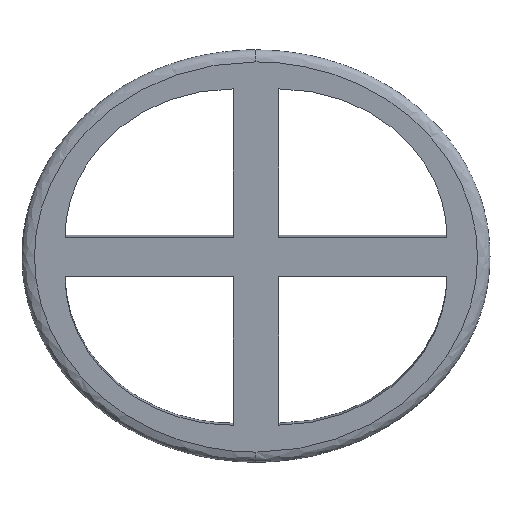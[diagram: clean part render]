
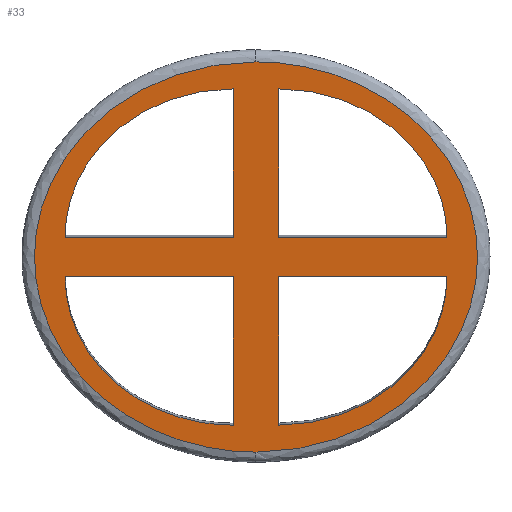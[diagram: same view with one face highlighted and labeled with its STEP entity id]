
A CAD part, front view. The second image highlights one B-rep face of the part: STEP entity #33.
In plain terms, the highlighted planar face has unit normal (-0.001, -0.994, -0.107).
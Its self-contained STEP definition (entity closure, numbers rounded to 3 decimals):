
#24=FACE_BOUND('',#70,.T.);
#25=FACE_BOUND('',#71,.T.);
#26=FACE_BOUND('',#72,.T.);
#27=FACE_BOUND('',#73,.T.);
#33=ADVANCED_FACE('',(#51,#24,#25,#26,#27),#308,.T.);
#51=FACE_OUTER_BOUND('',#69,.T.);
#69=EDGE_LOOP('',(#98,#99));
#70=EDGE_LOOP('',(#100,#101,#102));
#71=EDGE_LOOP('',(#103,#104,#105));
#72=EDGE_LOOP('',(#106,#107,#108));
#73=EDGE_LOOP('',(#109,#110,#111));
#98=ORIENTED_EDGE('',*,*,#197,.T.);
#99=ORIENTED_EDGE('',*,*,#231,.T.);
#100=ORIENTED_EDGE('',*,*,#204,.F.);
#101=ORIENTED_EDGE('',*,*,#189,.F.);
#102=ORIENTED_EDGE('',*,*,#188,.F.);
#103=ORIENTED_EDGE('',*,*,#190,.F.);
#104=ORIENTED_EDGE('',*,*,#208,.F.);
#105=ORIENTED_EDGE('',*,*,#191,.F.);
#106=ORIENTED_EDGE('',*,*,#192,.F.);
#107=ORIENTED_EDGE('',*,*,#215,.F.);
#108=ORIENTED_EDGE('',*,*,#193,.F.);
#109=ORIENTED_EDGE('',*,*,#225,.T.);
#110=ORIENTED_EDGE('',*,*,#194,.T.);
#111=ORIENTED_EDGE('',*,*,#195,.T.);
#188=EDGE_CURVE('',#279,#280,#232,.T.);
#189=EDGE_CURVE('',#280,#281,#233,.T.);
#190=EDGE_CURVE('',#283,#284,#234,.T.);
#191=EDGE_CURVE('',#284,#282,#235,.T.);
#192=EDGE_CURVE('',#286,#287,#236,.T.);
#193=EDGE_CURVE('',#287,#285,#237,.T.);
#194=EDGE_CURVE('',#288,#289,#238,.T.);
#195=EDGE_CURVE('',#289,#290,#239,.T.);
#197=EDGE_CURVE('',#303,#307,#259,.T.);
#204=EDGE_CURVE('',#281,#279,#261,.T.);
#208=EDGE_CURVE('',#282,#283,#265,.T.);
#215=EDGE_CURVE('',#285,#286,#269,.T.);
#225=EDGE_CURVE('',#290,#288,#271,.T.);
#231=EDGE_CURVE('',#307,#303,#277,.T.);
#232=B_SPLINE_CURVE_WITH_KNOTS('',1,(#1213,#1214),.UNSPECIFIED.,.F.,.F.,
(2,2),(6.283,6.783),.UNSPECIFIED.);
#233=B_SPLINE_CURVE_WITH_KNOTS('',1,(#1215,#1216),.UNSPECIFIED.,.F.,.F.,
(2,2),(6.783,7.783),.UNSPECIFIED.);
#234=B_SPLINE_CURVE_WITH_KNOTS('',1,(#1217,#1218),.UNSPECIFIED.,.F.,.F.,
(2,2),(5.142,6.142),.UNSPECIFIED.);
#235=B_SPLINE_CURVE_WITH_KNOTS('',1,(#1219,#1220),.UNSPECIFIED.,.F.,.F.,
(2,2),(6.142,6.642),.UNSPECIFIED.);
#236=B_SPLINE_CURVE_WITH_KNOTS('',1,(#1221,#1222),.UNSPECIFIED.,.F.,.F.,
(2,2),(6.142,7.142),.UNSPECIFIED.);
#237=B_SPLINE_CURVE_WITH_KNOTS('',1,(#1223,#1224),.UNSPECIFIED.,.F.,.F.,
(2,2),(7.142,7.642),.UNSPECIFIED.);
#238=B_SPLINE_CURVE_WITH_KNOTS('',1,(#1225,#1226),.UNSPECIFIED.,.F.,.F.,
(2,2),(0.,1.),.UNSPECIFIED.);
#239=B_SPLINE_CURVE_WITH_KNOTS('',1,(#1227,#1228),.UNSPECIFIED.,.F.,.F.,
(2,2),(1.,1.5),.UNSPECIFIED.);
#259=(
BOUNDED_CURVE()
B_SPLINE_CURVE(2,(#1234,#1235,#1236,#1237,#1238),.UNSPECIFIED.,.F.,.F.)
B_SPLINE_CURVE_WITH_KNOTS((3,2,3),(0.,1.571,3.142),
 .UNSPECIFIED.)
CURVE()
GEOMETRIC_REPRESENTATION_ITEM()
RATIONAL_B_SPLINE_CURVE((1.,0.707,1.,0.707,1.))
REPRESENTATION_ITEM('')
);
#261=(
BOUNDED_CURVE()
B_SPLINE_CURVE(2,(#1252,#1253,#1254),.UNSPECIFIED.,.F.,.F.)
B_SPLINE_CURVE_WITH_KNOTS((3,3),(7.783,9.354),
 .UNSPECIFIED.)
CURVE()
GEOMETRIC_REPRESENTATION_ITEM()
RATIONAL_B_SPLINE_CURVE((1.,0.707,1.))
REPRESENTATION_ITEM('')
);
#265=(
BOUNDED_CURVE()
B_SPLINE_CURVE(2,(#1262,#1263,#1264),.UNSPECIFIED.,.F.,.F.)
B_SPLINE_CURVE_WITH_KNOTS((3,3),(3.571,5.142),
 .UNSPECIFIED.)
CURVE()
GEOMETRIC_REPRESENTATION_ITEM()
RATIONAL_B_SPLINE_CURVE((1.,0.707,1.))
REPRESENTATION_ITEM('')
);
#269=(
BOUNDED_CURVE()
B_SPLINE_CURVE(2,(#1278,#1279,#1280),.UNSPECIFIED.,.F.,.F.)
B_SPLINE_CURVE_WITH_KNOTS((3,3),(4.571,6.142),
 .UNSPECIFIED.)
CURVE()
GEOMETRIC_REPRESENTATION_ITEM()
RATIONAL_B_SPLINE_CURVE((1.,0.707,1.))
REPRESENTATION_ITEM('')
);
#271=(
BOUNDED_CURVE()
B_SPLINE_CURVE(2,(#1300,#1301,#1302),.UNSPECIFIED.,.F.,.F.)
B_SPLINE_CURVE_WITH_KNOTS((3,3),(1.5,3.071),.UNSPECIFIED.)
CURVE()
GEOMETRIC_REPRESENTATION_ITEM()
RATIONAL_B_SPLINE_CURVE((1.,0.707,1.))
REPRESENTATION_ITEM('')
);
#277=(
BOUNDED_CURVE()
B_SPLINE_CURVE(2,(#1371,#1372,#1373,#1374,#1375),.UNSPECIFIED.,.F.,.F.)
B_SPLINE_CURVE_WITH_KNOTS((3,2,3),(3.142,4.712,6.283),
 .UNSPECIFIED.)
CURVE()
GEOMETRIC_REPRESENTATION_ITEM()
RATIONAL_B_SPLINE_CURVE((1.,0.707,1.,0.707,1.))
REPRESENTATION_ITEM('')
);
#279=VERTEX_POINT('',#1127);
#280=VERTEX_POINT('',#1128);
#281=VERTEX_POINT('',#1129);
#282=VERTEX_POINT('',#1130);
#283=VERTEX_POINT('',#1131);
#284=VERTEX_POINT('',#1132);
#285=VERTEX_POINT('',#1133);
#286=VERTEX_POINT('',#1134);
#287=VERTEX_POINT('',#1135);
#288=VERTEX_POINT('',#1136);
#289=VERTEX_POINT('',#1137);
#290=VERTEX_POINT('',#1138);
#303=VERTEX_POINT('',#1151);
#307=VERTEX_POINT('',#1155);
#308=PLANE('',#346);
#346=AXIS2_PLACEMENT_3D('',#552,#359,$);
#359=DIRECTION('',(-0.001,-0.994,-0.107));
#552=CARTESIAN_POINT('',(-35.975,-91.098,-23.45));
#1127=CARTESIAN_POINT('',(-3.681,-91.665,-18.555));
#1128=CARTESIAN_POINT('',(-3.681,-94.203,4.99));
#1129=CARTESIAN_POINT('',(-30.413,-94.171,4.993));
#1130=CARTESIAN_POINT('',(-3.681,-97.422,34.845));
#1131=CARTESIAN_POINT('',(-30.413,-94.852,11.304));
#1132=CARTESIAN_POINT('',(-3.681,-94.884,11.301));
#1133=CARTESIAN_POINT('',(3.485,-91.673,-18.556));
#1134=CARTESIAN_POINT('',(30.216,-94.244,4.985));
#1135=CARTESIAN_POINT('',(3.485,-94.212,4.989));
#1136=CARTESIAN_POINT('',(30.216,-94.925,11.296));
#1137=CARTESIAN_POINT('',(3.485,-94.892,11.3));
#1138=CARTESIAN_POINT('',(3.485,-97.431,34.845));
#1151=CARTESIAN_POINT('',(-0.098,-91.208,-22.835));
#1155=CARTESIAN_POINT('',(-0.098,-97.888,39.125));
#1213=CARTESIAN_POINT('',(-3.681,-91.665,-18.555));
#1214=CARTESIAN_POINT('',(-3.681,-94.203,4.99));
#1215=CARTESIAN_POINT('',(-3.681,-94.203,4.99));
#1216=CARTESIAN_POINT('',(-30.413,-94.171,4.993));
#1217=CARTESIAN_POINT('',(-30.413,-94.852,11.304));
#1218=CARTESIAN_POINT('',(-3.681,-94.884,11.301));
#1219=CARTESIAN_POINT('',(-3.681,-94.884,11.301));
#1220=CARTESIAN_POINT('',(-3.681,-97.422,34.845));
#1221=CARTESIAN_POINT('',(30.216,-94.244,4.985));
#1222=CARTESIAN_POINT('',(3.485,-94.212,4.989));
#1223=CARTESIAN_POINT('',(3.485,-94.212,4.989));
#1224=CARTESIAN_POINT('',(3.485,-91.673,-18.556));
#1225=CARTESIAN_POINT('',(30.216,-94.925,11.296));
#1226=CARTESIAN_POINT('',(3.485,-94.892,11.3));
#1227=CARTESIAN_POINT('',(3.485,-94.892,11.3));
#1228=CARTESIAN_POINT('',(3.485,-97.431,34.845));
#1234=CARTESIAN_POINT('',(-0.098,-91.208,-22.835));
#1235=CARTESIAN_POINT('',(35.075,-91.25,-22.839));
#1236=CARTESIAN_POINT('',(35.075,-94.59,8.14));
#1237=CARTESIAN_POINT('',(35.075,-97.93,39.12));
#1238=CARTESIAN_POINT('',(-0.098,-97.888,39.125));
#1252=CARTESIAN_POINT('',(-30.413,-94.171,4.993));
#1253=CARTESIAN_POINT('',(-30.413,-91.633,-18.551));
#1254=CARTESIAN_POINT('',(-3.681,-91.665,-18.555));
#1262=CARTESIAN_POINT('',(-3.681,-97.422,34.845));
#1263=CARTESIAN_POINT('',(-30.413,-97.39,34.849));
#1264=CARTESIAN_POINT('',(-30.413,-94.852,11.304));
#1278=CARTESIAN_POINT('',(3.485,-91.673,-18.556));
#1279=CARTESIAN_POINT('',(30.216,-91.706,-18.559));
#1280=CARTESIAN_POINT('',(30.216,-94.244,4.985));
#1300=CARTESIAN_POINT('',(3.485,-97.431,34.845));
#1301=CARTESIAN_POINT('',(30.216,-97.463,34.841));
#1302=CARTESIAN_POINT('',(30.216,-94.925,11.296));
#1371=CARTESIAN_POINT('',(-0.098,-97.888,39.125));
#1372=CARTESIAN_POINT('',(-35.271,-97.846,39.129));
#1373=CARTESIAN_POINT('',(-35.271,-94.505,8.149));
#1374=CARTESIAN_POINT('',(-35.271,-91.165,-22.83));
#1375=CARTESIAN_POINT('',(-0.098,-91.208,-22.835));
